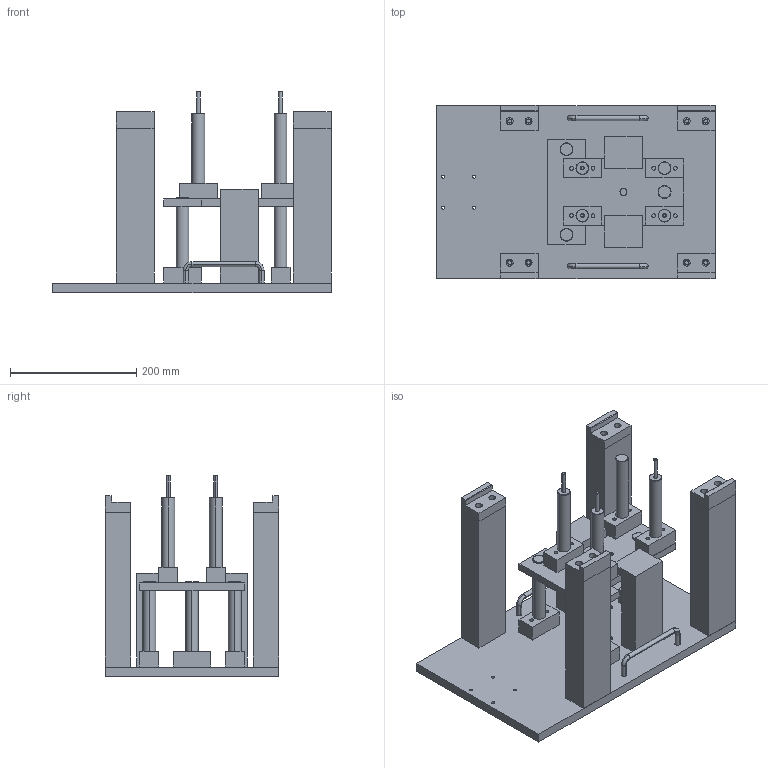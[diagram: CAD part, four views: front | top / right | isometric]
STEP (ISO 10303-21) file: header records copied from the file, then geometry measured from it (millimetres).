
FILE_DESCRIPTION(('CATIA V5 STEP Exchange'),'2;1');
FILE_NAME('C:\Users\22672\Desktop\附件1\Product-ZPZJ.stp','2023-03-07T00:03:24+00:00',('none'),('none'),'CATIA Version 5 Release 21 GA (IN-10)','CATIA V5 STEP AP203','none');
FILE_SCHEMA(('CONFIG_CONTROL_DESIGN'));
Length unit declared in the file: millimetre
Products named in the file (1): Product-ZPZJ
Assembly tree (28 placements, depth 2):
  Product-ZPZJ
    #58
    #3911
    #4402
    #4893
    #5384
    #5875
    #6379
    #6883
    #7387
    #7735
    #8296
    #8857
    #9418
    #9979
    #10387
    #10795
    #11588
    #12381
    #13174
    #13967
    #16054
    #16442
    #16830
    #17321
    #17669
    #18017
    #18365
    #18856
Bounding box: 440 x 274 x 318 mm (x, y, z)
Volume: 5679448.6 mm3; surface area: 820443.1 mm2
Topology: 28 solids, 28 shells, 669 faces, 1529 edges, 992 vertices
Faces by surface type: cylinder 326, plane 228, cone 99, torus 16
Entity records: 19280 total; most frequent: CARTESIAN_POINT 3588, ORIENTED_EDGE 3058, DIRECTION 2831, EDGE_CURVE 1529, AXIS2_PLACEMENT_3D 1451, VERTEX_POINT 992, EDGE_LOOP 893, CIRCLE 780
